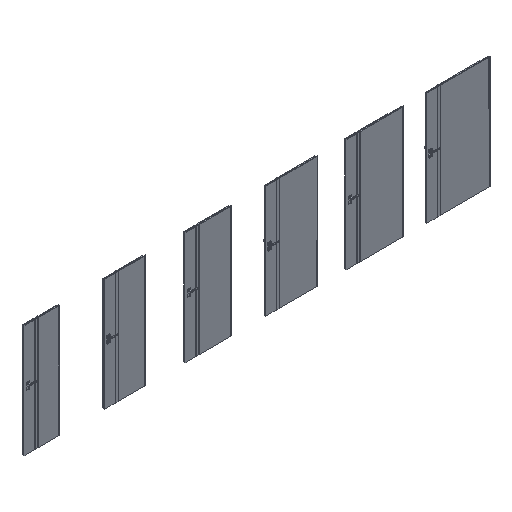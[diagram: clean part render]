
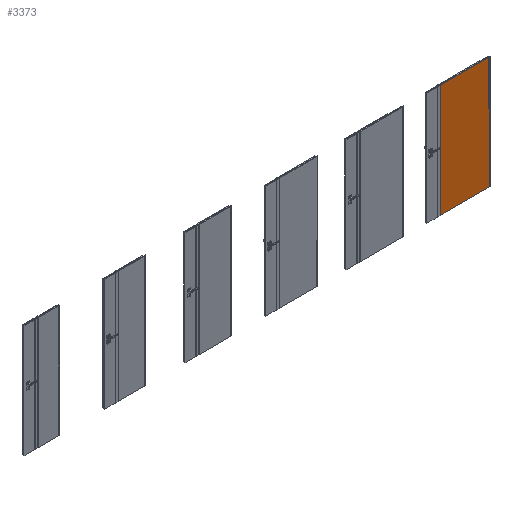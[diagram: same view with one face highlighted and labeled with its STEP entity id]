
A CAD part, isometric view. The second image highlights one B-rep face of the part: STEP entity #3373.
In plain terms, the highlighted planar face has unit normal (0, -1, 0).
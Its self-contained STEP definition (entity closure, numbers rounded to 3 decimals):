
#2143=FACE_OUTER_BOUND('',#6271,.T.);
#3373=ADVANCED_FACE('',(#2143),#4189,.F.);
#4189=PLANE('',#21758);
#6271=EDGE_LOOP('',(#10514,#10515,#10516,#10517));
#10514=ORIENTED_EDGE('',*,*,#16200,.F.);
#10515=ORIENTED_EDGE('',*,*,#16201,.T.);
#10516=ORIENTED_EDGE('',*,*,#16202,.F.);
#10517=ORIENTED_EDGE('',*,*,#16203,.F.);
#13716=VERTEX_POINT('',#36804);
#13717=VERTEX_POINT('',#36805);
#13718=VERTEX_POINT('',#36807);
#13719=VERTEX_POINT('',#36809);
#16200=EDGE_CURVE('',#13716,#13717,#18314,.T.);
#16201=EDGE_CURVE('',#13716,#13718,#18315,.T.);
#16202=EDGE_CURVE('',#13719,#13718,#18316,.T.);
#16203=EDGE_CURVE('',#13717,#13719,#18317,.T.);
#18314=LINE('',#36803,#19946);
#18315=LINE('',#36806,#19947);
#18316=LINE('',#36808,#19948);
#18317=LINE('',#36810,#19949);
#19946=VECTOR('',#26095,1.);
#19947=VECTOR('',#26096,1.);
#19948=VECTOR('',#26097,1.);
#19949=VECTOR('',#26098,1.);
#21758=AXIS2_PLACEMENT_3D('',#36811,#26099,#26100);
#26095=DIRECTION('',(0.,0.,1.));
#26096=DIRECTION('',(1.,0.,0.));
#26097=DIRECTION('',(0.,0.,-1.));
#26098=DIRECTION('',(1.,0.,0.));
#26099=DIRECTION('',(0.,1.,0.));
#26100=DIRECTION('',(-1.,0.,0.));
#36803=CARTESIAN_POINT('',(7182.15,-39.3,0.));
#36804=CARTESIAN_POINT('',(7182.15,-39.3,0.));
#36805=CARTESIAN_POINT('',(7182.15,-39.3,2030.));
#36806=CARTESIAN_POINT('',(7178.,-39.3,0.));
#36807=CARTESIAN_POINT('',(8072.,-39.3,0.));
#36808=CARTESIAN_POINT('',(8072.,-39.3,2030.));
#36809=CARTESIAN_POINT('',(8072.,-39.3,2030.));
#36810=CARTESIAN_POINT('',(7178.,-39.3,2030.));
#36811=CARTESIAN_POINT('',(7178.,-39.3,2030.));
